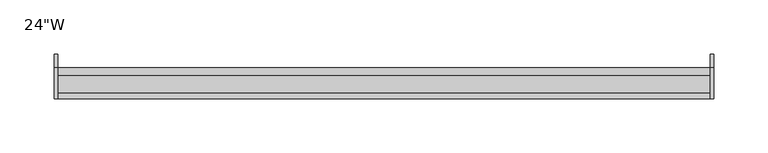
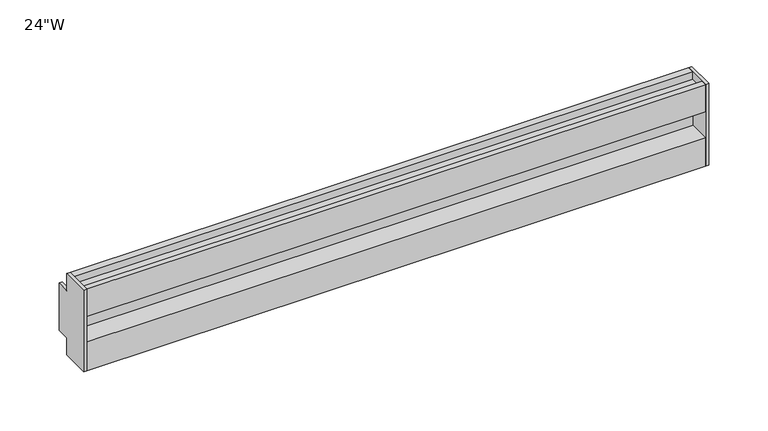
"""IFC4 building model written with IfcOpenShell, lengths in millimetres: furniture geometry."""

from ifc_helpers import new_model, si_unit, frame, origin, place, context, project, spatial, polyline, outline, extrude, source, transform, mapped, element, save


def furniture_b1e4f5cd(model_context):
    return source(origin(), model_context, "Body", "SweptSolid", [
        extrude(outline(polyline([(0.0, 1152.5250015), (-12.8269987, 1152.5250015), (-12.8269987, 1135.0625), (-41.275, 1135.0625), (-41.275, 1219.2), (-12.8269987, 1219.2), (-12.8269987, 1201.4200014), (0.0, 1201.4200014), (0.0, 1152.5250015)])), frame((301.6249999, 0.0, 0.0), z_axis=(1.0, 0.0, 0.0), x_axis=(0.0, 1.0, 0.0)), (0.0, 0.0, 1.0), 3.1750001),
        extrude(outline(polyline([(-12.8269987, 1201.4200014), (0.0, 1201.4200014), (0.0, 1152.5250015), (-12.8269987, 1152.5250015), (-12.8269987, 1135.0625), (-41.275, 1135.0625), (-41.275, 1219.2), (-12.8269987, 1219.2), (-12.8269987, 1201.4200014)])), frame((-304.8, 0.0, 0.0), z_axis=(1.0, 0.0, 0.0), x_axis=(0.0, 1.0, 0.0)), (0.0, 0.0, 1.0), 3.1750001),
        extrude(outline(polyline([(-12.8269987, 1219.2), (-12.8269987, 1135.0625), (-41.275, 1135.0625), (-41.275, 1164.5265037), (-20.6375, 1164.5265037), (-20.6375, 1191.1168647), (-41.275, 1191.1168647), (-41.275, 1219.2), (-35.9409983, 1219.2), (-35.9409983, 1211.7705018), (-19.6849979, 1211.7705018), (-19.6849979, 1219.2), (-12.8269987, 1219.2)])), frame((-301.6249999, 0.0, 0.0), z_axis=(1.0, 0.0, 0.0), x_axis=(0.0, 1.0, 0.0)), (0.0, 0.0, 1.0), 603.2499998),
    ])


if __name__ == "__main__":
    model = new_model("IFC4")
    model_context = context("Model", 3, world=origin())
    ifc_project = project(units=[si_unit("LENGTHUNIT", "METRE", prefix="MILLI")], contexts=[model_context])
    site = spatial("IfcSite", under=ifc_project)
    building = spatial("IfcBuilding", under=site)
    placement = place(None, origin())
    furniture_shape = furniture_b1e4f5cd(model_context)
    element("IfcFurniture", 1, ObjectType="HermanMiller_CoStruc_C1172_EquipmentRailSystemsMounted : 24\"W", at=placement, inside=building, context=model_context, shape_type="MappedRepresentation", body=[
        mapped(furniture_shape, transform((0.0, 0.0, 0.0), x_axis=(1.0, 0.0, 0.0), y_axis=(0.0, 1.0, 0.0), z_axis=(0.0, 0.0, 1.0))),
    ])
    save(model, "model.ifc")
